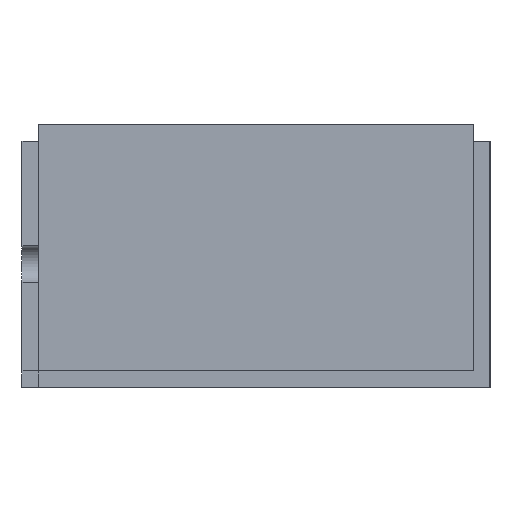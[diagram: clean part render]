
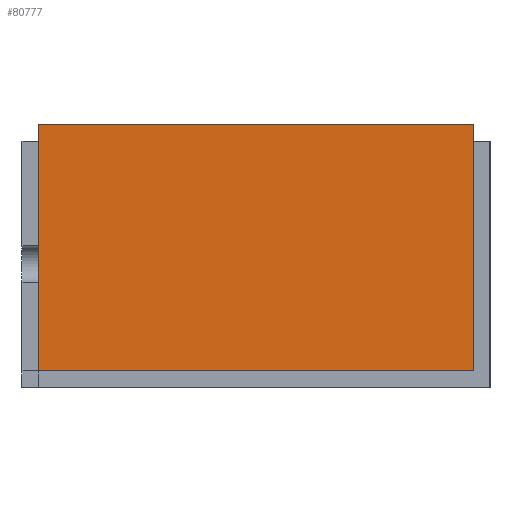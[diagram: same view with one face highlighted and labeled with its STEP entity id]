
A CAD part, left-side view. The second image highlights one B-rep face of the part: STEP entity #80777.
In plain terms, the highlighted planar face has unit normal (-1, 0, 0).
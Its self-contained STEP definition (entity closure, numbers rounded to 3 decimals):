
#80180 = VERTEX_POINT('',#80181);
#80181 = CARTESIAN_POINT('',(-56.,53.,0.));
#80190 = PLANE('',#80191);
#80191 = AXIS2_PLACEMENT_3D('',#80192,#80193,#80194);
#80192 = CARTESIAN_POINT('',(-56.,53.,0.));
#80193 = DIRECTION('',(0.,1.,0.));
#80194 = DIRECTION('',(1.,0.,0.));
#80202 = PLANE('',#80203);
#80203 = AXIS2_PLACEMENT_3D('',#80204,#80205,#80206);
#80204 = CARTESIAN_POINT('',(0.,26.5,0.));
#80205 = DIRECTION('',(-0.,-0.,-1.));
#80206 = DIRECTION('',(-1.,0.,0.));
#80214 = EDGE_CURVE('',#80180,#80215,#80217,.T.);
#80215 = VERTEX_POINT('',#80216);
#80216 = CARTESIAN_POINT('',(-56.,53.,30.));
#80217 = SURFACE_CURVE('',#80218,(#80222,#80229),.PCURVE_S1.);
#80218 = LINE('',#80219,#80220);
#80219 = CARTESIAN_POINT('',(-56.,53.,0.));
#80220 = VECTOR('',#80221,1.);
#80221 = DIRECTION('',(0.,0.,1.));
#80222 = PCURVE('',#80190,#80223);
#80223 = DEFINITIONAL_REPRESENTATION('',(#80224),#80228);
#80224 = LINE('',#80225,#80226);
#80225 = CARTESIAN_POINT('',(0.,0.));
#80226 = VECTOR('',#80227,1.);
#80227 = DIRECTION('',(0.,-1.));
#80228 = ( GEOMETRIC_REPRESENTATION_CONTEXT(2) 
PARAMETRIC_REPRESENTATION_CONTEXT() REPRESENTATION_CONTEXT('2D SPACE',''
  ) );
#80229 = PCURVE('',#80230,#80235);
#80230 = PLANE('',#80231);
#80231 = AXIS2_PLACEMENT_3D('',#80232,#80233,#80234);
#80232 = CARTESIAN_POINT('',(-56.,0.,0.));
#80233 = DIRECTION('',(-1.,0.,0.));
#80234 = DIRECTION('',(0.,1.,0.));
#80235 = DEFINITIONAL_REPRESENTATION('',(#80236),#80240);
#80236 = LINE('',#80237,#80238);
#80237 = CARTESIAN_POINT('',(53.,0.));
#80238 = VECTOR('',#80239,1.);
#80239 = DIRECTION('',(0.,-1.));
#80240 = ( GEOMETRIC_REPRESENTATION_CONTEXT(2) 
PARAMETRIC_REPRESENTATION_CONTEXT() REPRESENTATION_CONTEXT('2D SPACE',''
  ) );
#80258 = PLANE('',#80259);
#80259 = AXIS2_PLACEMENT_3D('',#80260,#80261,#80262);
#80260 = CARTESIAN_POINT('',(0.,26.5,30.));
#80261 = DIRECTION('',(-0.,-0.,-1.));
#80262 = DIRECTION('',(-1.,0.,0.));
#80411 = EDGE_CURVE('',#80412,#80180,#80414,.T.);
#80412 = VERTEX_POINT('',#80413);
#80413 = CARTESIAN_POINT('',(-56.,0.,0.));
#80414 = SURFACE_CURVE('',#80415,(#80419,#80426),.PCURVE_S1.);
#80415 = LINE('',#80416,#80417);
#80416 = CARTESIAN_POINT('',(-56.,0.,0.));
#80417 = VECTOR('',#80418,1.);
#80418 = DIRECTION('',(0.,1.,0.));
#80419 = PCURVE('',#80202,#80420);
#80420 = DEFINITIONAL_REPRESENTATION('',(#80421),#80425);
#80421 = LINE('',#80422,#80423);
#80422 = CARTESIAN_POINT('',(56.,-26.5));
#80423 = VECTOR('',#80424,1.);
#80424 = DIRECTION('',(0.,1.));
#80425 = ( GEOMETRIC_REPRESENTATION_CONTEXT(2) 
PARAMETRIC_REPRESENTATION_CONTEXT() REPRESENTATION_CONTEXT('2D SPACE',''
  ) );
#80426 = PCURVE('',#80230,#80427);
#80427 = DEFINITIONAL_REPRESENTATION('',(#80428),#80432);
#80428 = LINE('',#80429,#80430);
#80429 = CARTESIAN_POINT('',(0.,0.));
#80430 = VECTOR('',#80431,1.);
#80431 = DIRECTION('',(1.,0.));
#80432 = ( GEOMETRIC_REPRESENTATION_CONTEXT(2) 
PARAMETRIC_REPRESENTATION_CONTEXT() REPRESENTATION_CONTEXT('2D SPACE',''
  ) );
#80472 = PLANE('',#80473);
#80473 = AXIS2_PLACEMENT_3D('',#80474,#80475,#80476);
#80474 = CARTESIAN_POINT('',(56.,0.,0.));
#80475 = DIRECTION('',(0.,-1.,0.));
#80476 = DIRECTION('',(-1.,0.,0.));
#80735 = VERTEX_POINT('',#80736);
#80736 = CARTESIAN_POINT('',(-56.,0.,30.));
#80757 = EDGE_CURVE('',#80735,#80215,#80758,.T.);
#80758 = SURFACE_CURVE('',#80759,(#80763,#80770),.PCURVE_S1.);
#80759 = LINE('',#80760,#80761);
#80760 = CARTESIAN_POINT('',(-56.,0.,30.));
#80761 = VECTOR('',#80762,1.);
#80762 = DIRECTION('',(0.,1.,0.));
#80763 = PCURVE('',#80258,#80764);
#80764 = DEFINITIONAL_REPRESENTATION('',(#80765),#80769);
#80765 = LINE('',#80766,#80767);
#80766 = CARTESIAN_POINT('',(56.,-26.5));
#80767 = VECTOR('',#80768,1.);
#80768 = DIRECTION('',(0.,1.));
#80769 = ( GEOMETRIC_REPRESENTATION_CONTEXT(2) 
PARAMETRIC_REPRESENTATION_CONTEXT() REPRESENTATION_CONTEXT('2D SPACE',''
  ) );
#80770 = PCURVE('',#80230,#80771);
#80771 = DEFINITIONAL_REPRESENTATION('',(#80772),#80776);
#80772 = LINE('',#80773,#80774);
#80773 = CARTESIAN_POINT('',(0.,-30.));
#80774 = VECTOR('',#80775,1.);
#80775 = DIRECTION('',(1.,0.));
#80776 = ( GEOMETRIC_REPRESENTATION_CONTEXT(2) 
PARAMETRIC_REPRESENTATION_CONTEXT() REPRESENTATION_CONTEXT('2D SPACE',''
  ) );
#80777 = ADVANCED_FACE('',(#80778),#80230,.T.);
#80778 = FACE_BOUND('',#80779,.T.);
#80779 = EDGE_LOOP('',(#80780,#80801,#80802,#80803));
#80780 = ORIENTED_EDGE('',*,*,#80781,.T.);
#80781 = EDGE_CURVE('',#80412,#80735,#80782,.T.);
#80782 = SURFACE_CURVE('',#80783,(#80787,#80794),.PCURVE_S1.);
#80783 = LINE('',#80784,#80785);
#80784 = CARTESIAN_POINT('',(-56.,0.,0.));
#80785 = VECTOR('',#80786,1.);
#80786 = DIRECTION('',(0.,0.,1.));
#80787 = PCURVE('',#80230,#80788);
#80788 = DEFINITIONAL_REPRESENTATION('',(#80789),#80793);
#80789 = LINE('',#80790,#80791);
#80790 = CARTESIAN_POINT('',(0.,0.));
#80791 = VECTOR('',#80792,1.);
#80792 = DIRECTION('',(0.,-1.));
#80793 = ( GEOMETRIC_REPRESENTATION_CONTEXT(2) 
PARAMETRIC_REPRESENTATION_CONTEXT() REPRESENTATION_CONTEXT('2D SPACE',''
  ) );
#80794 = PCURVE('',#80472,#80795);
#80795 = DEFINITIONAL_REPRESENTATION('',(#80796),#80800);
#80796 = LINE('',#80797,#80798);
#80797 = CARTESIAN_POINT('',(112.,0.));
#80798 = VECTOR('',#80799,1.);
#80799 = DIRECTION('',(0.,-1.));
#80800 = ( GEOMETRIC_REPRESENTATION_CONTEXT(2) 
PARAMETRIC_REPRESENTATION_CONTEXT() REPRESENTATION_CONTEXT('2D SPACE',''
  ) );
#80801 = ORIENTED_EDGE('',*,*,#80757,.T.);
#80802 = ORIENTED_EDGE('',*,*,#80214,.F.);
#80803 = ORIENTED_EDGE('',*,*,#80411,.F.);
